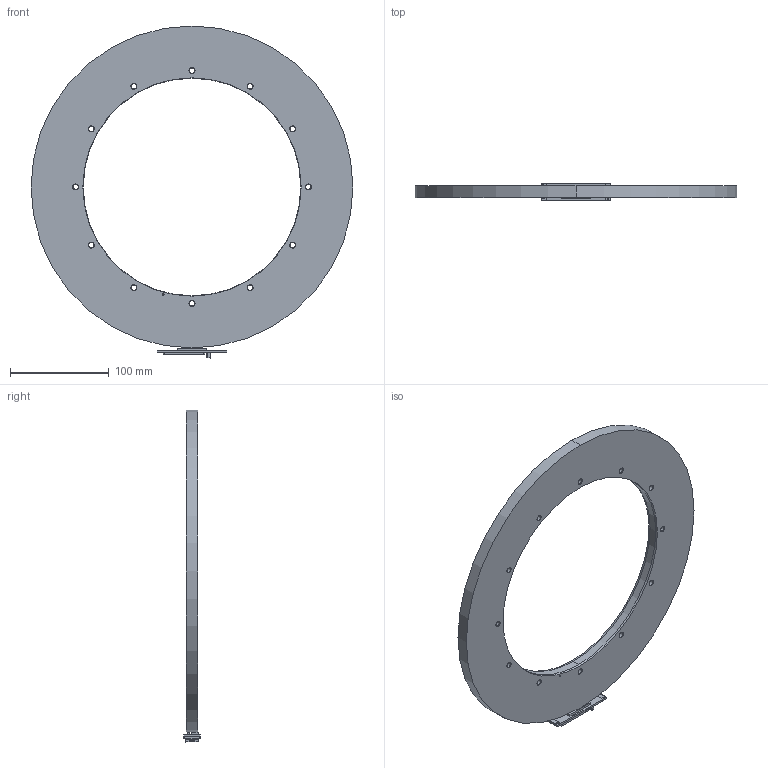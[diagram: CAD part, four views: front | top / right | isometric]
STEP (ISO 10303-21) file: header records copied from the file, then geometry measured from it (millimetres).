
FILE_DESCRIPTION (( 'STEP AP214' ), '1' );
FILE_NAME ('DBRxVx_SAR325_exposed.STEP', '2024-02-02T13:26:46', ( '' ), ( '' ), 'SwSTEP 2.0', 'SolidWorks 2022', '' );
FILE_SCHEMA (( 'AUTOMOTIVE_DESIGN' ));
Length unit declared in the file: millimetre
Products named in the file (1): DBRxVx_SAR325_exposed
Bounding box: 325.5 x 17 x 335.64 mm (x, y, z)
Volume: 538187.7 mm3; surface area: 117463.1 mm2
Topology: 2 solids, 2 shells, 1739 faces, 4743 edges, 3145 vertices
Faces by surface type: plane 1330, bspline 202, cylinder 139, cone 64, sphere 4
Entity records: 84682 total; most frequent: CARTESIAN_POINT 26507, ORIENTED_EDGE 9476, DIRECTION 5670, EDGE_CURVE 4738, VERTEX_POINT 3145, B_SPLINE_CURVE_WITH_KNOTS 2364, VECTOR 2154, LINE 2154
